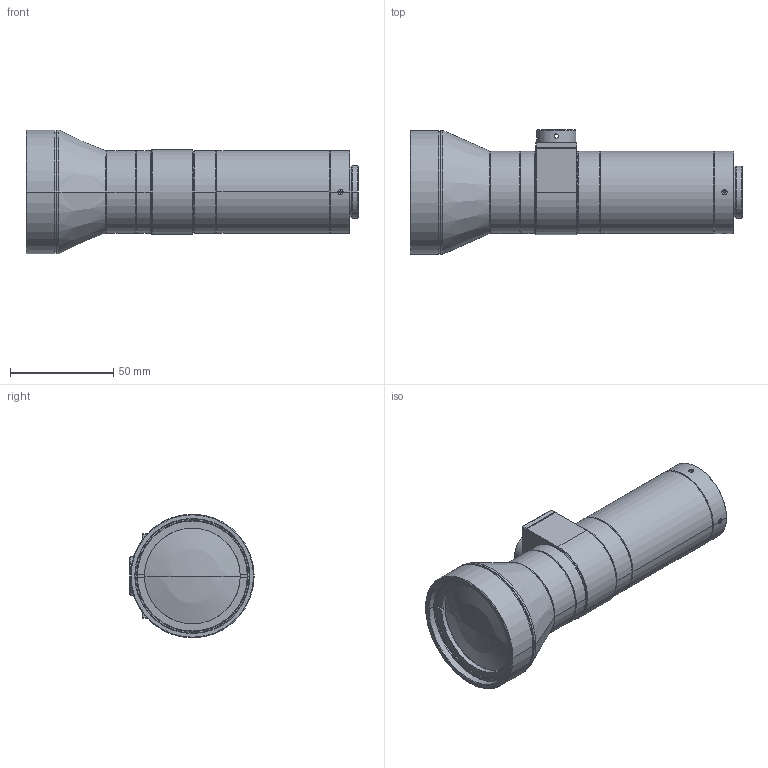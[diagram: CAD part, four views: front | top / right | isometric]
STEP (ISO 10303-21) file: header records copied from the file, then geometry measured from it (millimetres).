
FILE_DESCRIPTION((''),'2;1');
FILE_NAME('OPT-HP05-110C-F6_5_SW0001','2024-04-27T10:41:14',('李亦'),(''),'CREO PARAMETRIC BY PTC INC, 2020354','CREO PARAMETRIC BY PTC INC, 2020354','');
FILE_SCHEMA(('AUTOMOTIVE_DESIGN { 1 0 10303 214 1 1 1 1 }'));
Length unit declared in the file: millimetre
Products named in the file (1): OPT-HP05-110C-F6_5_SW0001
Bounding box: 161.14 x 60.3 x 60 mm (x, y, z)
Volume: 218330.6 mm3; surface area: 40675.7 mm2
Topology: 1 solids, 1 shells, 619 faces, 1498 edges, 880 vertices
Faces by surface type: plane 310, cone 126, cylinder 119, bspline 48, torus 12, sphere 4
Entity records: 23098 total; most frequent: CARTESIAN_POINT 8406, ORIENTED_EDGE 2924, DIRECTION 2856, EDGE_CURVE 1462, AXIS2_PLACEMENT_3D 1018, VERTEX_POINT 956, VECTOR 820, LINE 820
